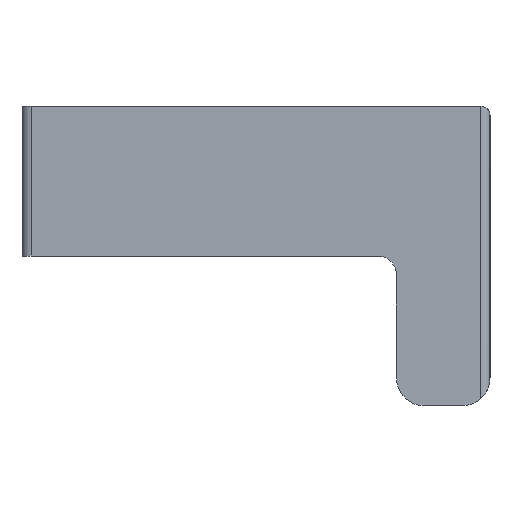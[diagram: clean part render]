
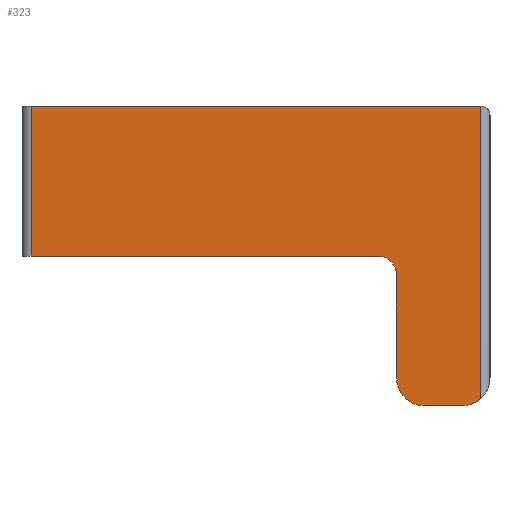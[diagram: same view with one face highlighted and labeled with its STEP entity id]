
A CAD part, left-side view. The second image highlights one B-rep face of the part: STEP entity #323.
In plain terms, the highlighted planar face has unit normal (-1, 0, 0).
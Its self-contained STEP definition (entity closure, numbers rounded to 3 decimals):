
#147 = VERTEX_POINT( '', #381 );
#149 = EDGE_CURVE( '', #261, #243, #383, .T. );
#155 = EDGE_CURVE( '', #261, #219, #389, .T. );
#161 = VERTEX_POINT( '', #395 );
#169 = EDGE_CURVE( '', #221, #219, #403, .T. );
#191 = VERTEX_POINT( '', #426 );
#209 = EDGE_CURVE( '', #243, #249, #446, .T. );
#219 = VERTEX_POINT( '', #456 );
#221 = VERTEX_POINT( '', #458 );
#225 = EDGE_CURVE( '', #249, #147, #462, .T. );
#243 = VERTEX_POINT( '', #483 );
#249 = VERTEX_POINT( '', #489 );
#261 = VERTEX_POINT( '', #504 );
#265 = EDGE_CURVE( '', #191, #305, #509, .T. );
#271 = EDGE_CURVE( '', #161, #221, #515, .T. );
#305 = VERTEX_POINT( '', #553 );
#323 = ADVANCED_FACE( '', ( #573 ), #574, .F. );
#333 = EDGE_CURVE( '', #147, #191, #587, .T. );
#349 = EDGE_CURVE( '', #305, #161, #607, .T. );
#381 = CARTESIAN_POINT( '', ( -7.5, -20., -10.5 ) );
#383 = CIRCLE( '', #644, 1.5 );
#389 = LINE( '', #661, #662 );
#395 = CARTESIAN_POINT( '', ( -7.5, -0.5, -4. ) );
#403 = LINE( '', #682, #683 );
#426 = CARTESIAN_POINT( '', ( -7.5, -20., -5. ) );
#446 = LINE( '', #739, #740 );
#456 = CARTESIAN_POINT( '', ( -7.5, -24.5, 4. ) );
#458 = CARTESIAN_POINT( '', ( -7.5, -0.5, 4. ) );
#462 = CIRCLE( '', #758, 1.5 );
#483 = CARTESIAN_POINT( '', ( -7.5, -23.5, -12. ) );
#489 = CARTESIAN_POINT( '', ( -7.5, -21.5, -12. ) );
#504 = CARTESIAN_POINT( '', ( -7.5, -24.5, -11.618 ) );
#509 = CIRCLE( '', #819, 1. );
#515 = LINE( '', #827, #828 );
#553 = CARTESIAN_POINT( '', ( -7.5, -19., -4. ) );
#573 = FACE_OUTER_BOUND( '', #903, .T. );
#574 = PLANE( '', #904 );
#587 = LINE( '', #918, #919 );
#607 = LINE( '', #949, #950 );
#644 = AXIS2_PLACEMENT_3D( '', #959, #960, #961 );
#661 = CARTESIAN_POINT( '', ( -7.5, -24.5, -4. ) );
#662 = VECTOR( '', #963, 1. );
#682 = CARTESIAN_POINT( '', ( -7.5, 0., 4. ) );
#683 = VECTOR( '', #974, 1. );
#739 = CARTESIAN_POINT( '', ( -7.5, -23.5, -12. ) );
#740 = VECTOR( '', #1010, 1. );
#758 = AXIS2_PLACEMENT_3D( '', #1014, #1015, #1016 );
#819 = AXIS2_PLACEMENT_3D( '', #1089, #1090, #1091 );
#827 = CARTESIAN_POINT( '', ( -7.5, -0.5, -4. ) );
#828 = VECTOR( '', #1095, 1. );
#903 = EDGE_LOOP( '', ( #1168, #1169, #1170, #1171, #1172, #1173, #1174, #1175, #1176 ) );
#904 = AXIS2_PLACEMENT_3D( '', #1177, #1178, #1179 );
#918 = CARTESIAN_POINT( '', ( -7.5, -20., -10.5 ) );
#919 = VECTOR( '', #1206, 1. );
#949 = CARTESIAN_POINT( '', ( -7.5, -19., -4. ) );
#950 = VECTOR( '', #1234, 1. );
#959 = CARTESIAN_POINT( '', ( -7.5, -23.5, -10.5 ) );
#960 = DIRECTION( '', ( 1., 0., 0. ) );
#961 = DIRECTION( '', ( 0., -1., 0. ) );
#963 = DIRECTION( '', ( 0., 0., 1. ) );
#974 = DIRECTION( '', ( 0., -1., 0. ) );
#1010 = DIRECTION( '', ( 0., 1., 0. ) );
#1014 = CARTESIAN_POINT( '', ( -7.5, -21.5, -10.5 ) );
#1015 = DIRECTION( '', ( 1., 0., 0. ) );
#1016 = DIRECTION( '', ( 0., 0., -1. ) );
#1089 = CARTESIAN_POINT( '', ( -7.5, -19., -5. ) );
#1090 = DIRECTION( '', ( -1., 0., 0. ) );
#1091 = DIRECTION( '', ( 0., -1., 0. ) );
#1095 = DIRECTION( '', ( 0., 0., 1. ) );
#1168 = ORIENTED_EDGE( '', *, *, #271, .F. );
#1169 = ORIENTED_EDGE( '', *, *, #349, .F. );
#1170 = ORIENTED_EDGE( '', *, *, #265, .F. );
#1171 = ORIENTED_EDGE( '', *, *, #333, .F. );
#1172 = ORIENTED_EDGE( '', *, *, #225, .F. );
#1173 = ORIENTED_EDGE( '', *, *, #209, .F. );
#1174 = ORIENTED_EDGE( '', *, *, #149, .F. );
#1175 = ORIENTED_EDGE( '', *, *, #155, .T. );
#1176 = ORIENTED_EDGE( '', *, *, #169, .F. );
#1177 = CARTESIAN_POINT( '', ( -7.5, 0., 0. ) );
#1178 = DIRECTION( '', ( 1., 0., 0. ) );
#1179 = DIRECTION( '', ( 0., 0., -1. ) );
#1206 = DIRECTION( '', ( 0., 0., 1. ) );
#1234 = DIRECTION( '', ( 0., 1., 0. ) );
